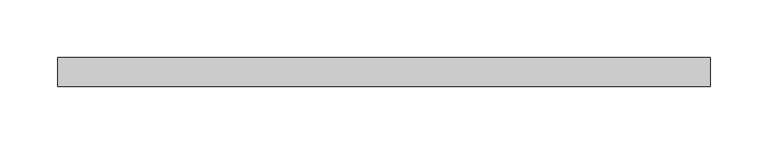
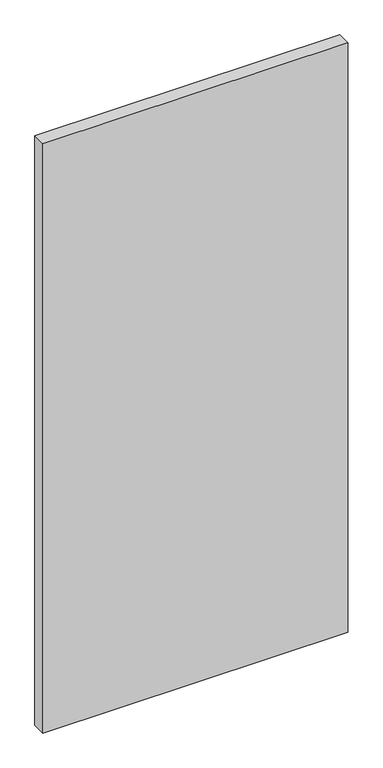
"""IFC4 building model written with IfcOpenShell, lengths in millimetres: plate geometry, Системная панель : С остеклением."""

from ifc_helpers import new_model, si_unit, origin, origin_with_axes, place, context, project, spatial, polyline, outline, extrude, source, transform, mapped, element, save


def plate_749ee249(model_context):
    return source(origin(), model_context, "Body", "SweptSolid", [
        extrude(outline(polyline([(281.3258602, 24.5), (-281.3258602, 24.5), (-281.3258602, 49.5), (281.3258602, 49.5), (281.3258602, 24.5)])), origin_with_axes(), (0.0, 0.0, 1.0), 1150.0),
    ])


if __name__ == "__main__":
    model = new_model("IFC4")
    model_context = context("Model", 3, world=origin())
    ifc_project = project(units=[si_unit("LENGTHUNIT", "METRE", prefix="MILLI")], contexts=[model_context])
    site = spatial("IfcSite", under=ifc_project)
    building = spatial("IfcBuilding", under=site)
    placement = place(None, origin())
    plate_shape = plate_749ee249(model_context)
    element("IfcPlate", 1, ObjectType="Системная панель : С остеклением", at=placement, inside=building, context=model_context, shape_type="MappedRepresentation", body=[
        mapped(plate_shape, transform((0.0, 0.0, 0.0), x_axis=(1.0, 0.0, 0.0), y_axis=(0.0, 1.0, 0.0), z_axis=(0.0, 0.0, 1.0))),
    ])
    save(model, "model.ifc")
